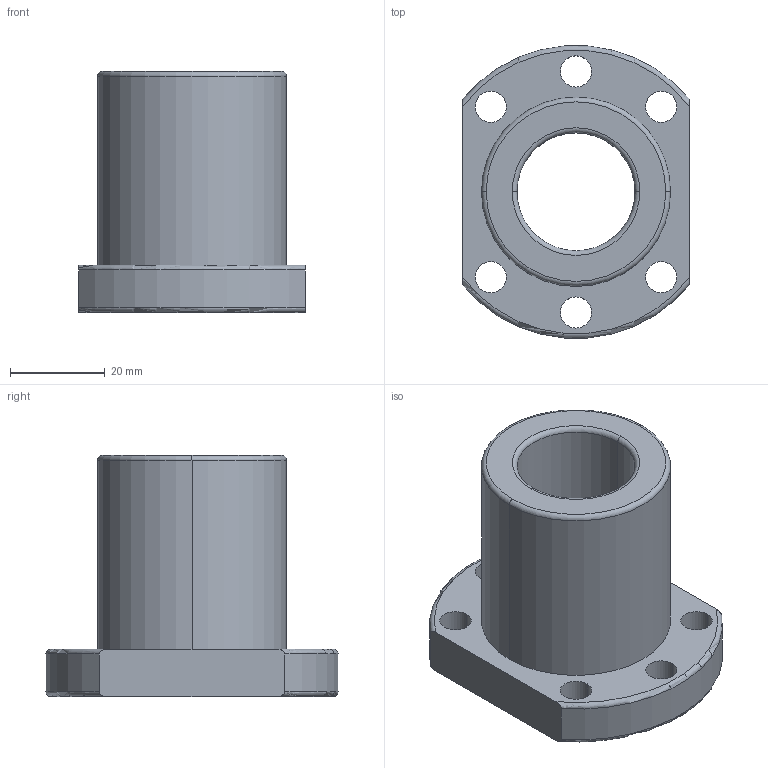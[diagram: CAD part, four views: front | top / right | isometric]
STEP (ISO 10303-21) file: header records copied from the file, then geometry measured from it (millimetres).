
FILE_DESCRIPTION (( 'STEP AP203' ), '1' );
FILE_NAME ('Castanha SFNU 2505.STEP', '2022-06-09T18:23:49', ( '' ), ( '' ), 'SwSTEP 2.0', 'SolidWorks 2019', '' );
FILE_SCHEMA (( 'CONFIG_CONTROL_DESIGN' ));
Length unit declared in the file: millimetre
Products named in the file (1): Castanha SFNU 2505
Bounding box: 48 x 61.8 x 51 mm (x, y, z)
Volume: 50763 mm3; surface area: 15961.9 mm2
Topology: 1 solids, 1 shells, 33 faces, 84 edges, 54 vertices
Faces by surface type: cylinder 18, torus 10, plane 5
Entity records: 1207 total; most frequent: CARTESIAN_POINT 268, DIRECTION 196, ORIENTED_EDGE 168, AXIS2_PLACEMENT_3D 86, EDGE_CURVE 84, VERTEX_POINT 54, CIRCLE 52, EDGE_LOOP 48
